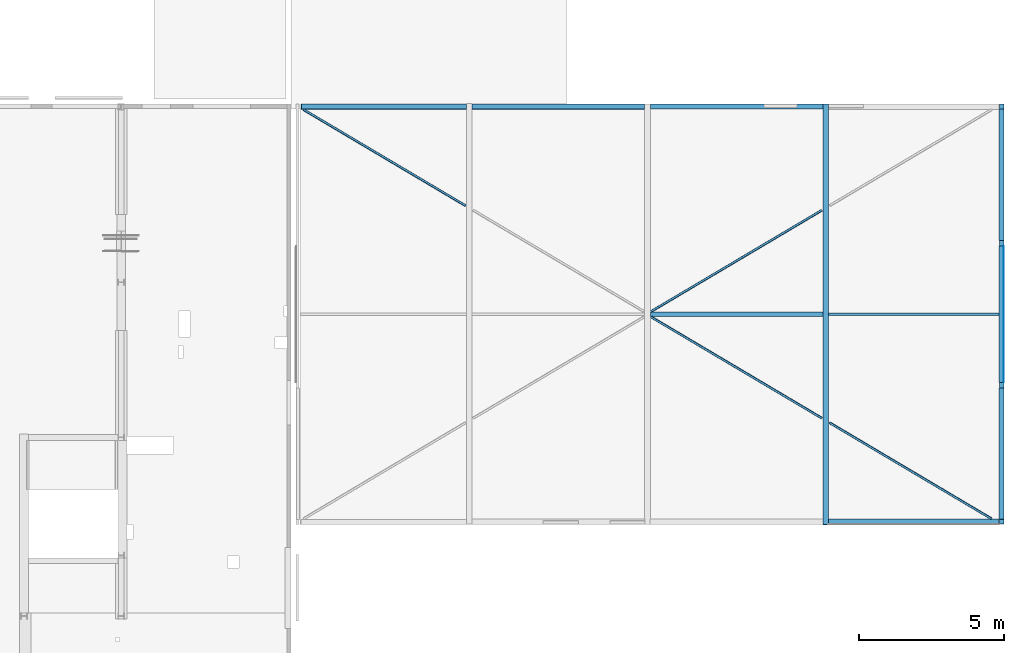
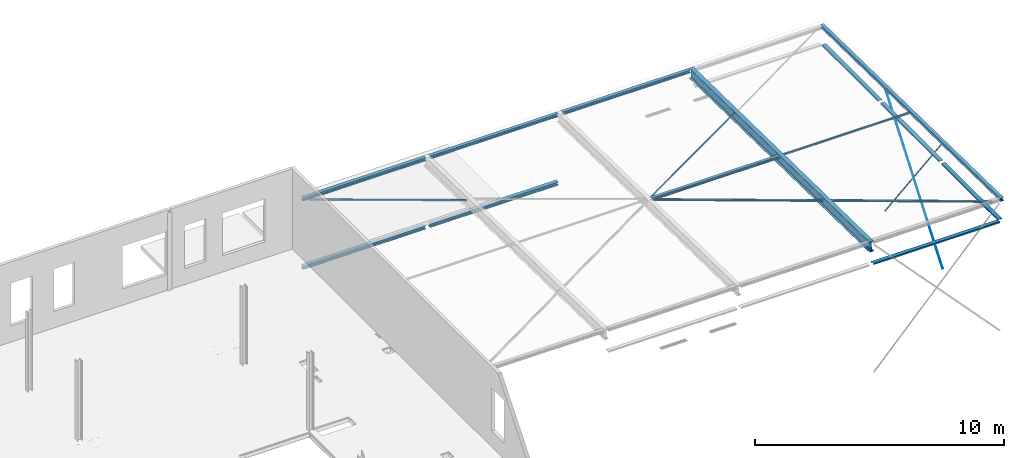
# One storey, part 10 of 16: 20 beams.
"""IFC2X3 building model written with IfcOpenShell, lengths in millimetres."""

from ifc_helpers import new_model, entity, si_unit, converted_unit, derived_unit, direction, frame, frame_2d, origin, place, context, subcontext, project, spatial, polyline, circle_curve, parameter, trimmed, segment, composite_curve, rectangle, i_section, outline, extrude, material, type_object, element, save


model = new_model("IFC2X3")

# Units and contexts
model_context = context("Model", 3, precision=0.01, world=origin(), true_north=direction((6.12303176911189e-17, 1.0)))
body_context = subcontext(model_context, "Body", "Model", "MODEL_VIEW")
ifc_project = project(units=[si_unit("LENGTHUNIT", "METRE", prefix="MILLI"), si_unit("AREAUNIT", "SQUARE_METRE"), si_unit("VOLUMEUNIT", "CUBIC_METRE"), converted_unit("PLANEANGLEUNIT", "DEGREE", entity("IfcRatioMeasure", 0.0174532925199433), si_unit("PLANEANGLEUNIT", "RADIAN"), dimensions=[0, 0, 0, 0, 0, 0, 0]), si_unit("MASSUNIT", "GRAM", prefix="KILO"), derived_unit("MASSDENSITYUNIT", [(si_unit("MASSUNIT", "GRAM", prefix="KILO"), 1), (si_unit("LENGTHUNIT", "METRE"), -3)]), derived_unit("MOMENTOFINERTIAUNIT", [(si_unit("LENGTHUNIT", "METRE"), 4)]), si_unit("TIMEUNIT", "SECOND"), si_unit("FREQUENCYUNIT", "HERTZ"), si_unit("THERMODYNAMICTEMPERATUREUNIT", "DEGREE_CELSIUS"), derived_unit("THERMALTRANSMITTANCEUNIT", [(si_unit("MASSUNIT", "GRAM", prefix="KILO"), 1), (si_unit("THERMODYNAMICTEMPERATUREUNIT", "KELVIN"), -1), (si_unit("TIMEUNIT", "SECOND"), -3)]), derived_unit("VOLUMETRICFLOWRATEUNIT", [(si_unit("LENGTHUNIT", "METRE"), 3), (si_unit("TIMEUNIT", "SECOND"), -1)]), si_unit("ELECTRICCURRENTUNIT", "AMPERE"), si_unit("ELECTRICVOLTAGEUNIT", "VOLT"), si_unit("POWERUNIT", "WATT"), si_unit("FORCEUNIT", "NEWTON", prefix="KILO"), si_unit("ILLUMINANCEUNIT", "LUX"), si_unit("LUMINOUSFLUXUNIT", "LUMEN"), si_unit("LUMINOUSINTENSITYUNIT", "CANDELA"), derived_unit("USERDEFINED", [(si_unit("MASSUNIT", "GRAM", prefix="KILO"), -1), (si_unit("LENGTHUNIT", "METRE"), -2), (si_unit("TIMEUNIT", "SECOND"), 3), (si_unit("LUMINOUSFLUXUNIT", "LUMEN"), 1)]), derived_unit("LINEARVELOCITYUNIT", [(si_unit("LENGTHUNIT", "METRE"), 1), (si_unit("TIMEUNIT", "SECOND"), -1)]), si_unit("PRESSUREUNIT", "PASCAL"), derived_unit("USERDEFINED", [(si_unit("LENGTHUNIT", "METRE"), -2), (si_unit("MASSUNIT", "GRAM", prefix="KILO"), 1), (si_unit("TIMEUNIT", "SECOND"), -2)]), derived_unit("LINEARFORCEUNIT", [(si_unit("MASSUNIT", "GRAM", prefix="KILO"), 1), (si_unit("LENGTHUNIT", "METRE"), 1), (si_unit("TIMEUNIT", "SECOND"), -2), (si_unit("LENGTHUNIT", "METRE"), -1)]), derived_unit("PLANARFORCEUNIT", [(si_unit("MASSUNIT", "GRAM", prefix="KILO"), 1), (si_unit("LENGTHUNIT", "METRE"), 1), (si_unit("TIMEUNIT", "SECOND"), -2), (si_unit("LENGTHUNIT", "METRE"), -2)])], contexts=[model_context])

# Site, building, storey
site_placement = place(None, origin())
site = spatial("IfcSite", under=ifc_project, at=site_placement, Name="Default", CompositionType="ELEMENT")
building_placement = place(site_placement, origin())
building = spatial("IfcBuilding", under=site, at=building_placement, CompositionType="ELEMENT")
storey_placement = place(building_placement, frame((0.0, 0.0, 3500.0)))
storey = spatial("IfcBuildingStorey", under=building, at=storey_placement, Name="01 eerste verdieping", CompositionType="ELEMENT", Elevation=3500.00000000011)

# Beams
ifc_material = material(Name="00_Staal_generiek")
beam_type_1 = type_object("IfcBeamType", Name="BERSnl_28_SF_LIB_balk hea -SH_gen_ISR:balk gen hea140", PredefinedType="BEAM")
beam_1_placement = place(storey_placement, frame((51283.4270571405, 28246.2966282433, 2850.0), z_axis=(0.0, 0.0, 1.0), x_axis=(-1.0, 0.0, 0.0)))
element("IfcBeam", 1, at=beam_1_placement, inside=storey, type_object=beam_type_1, material=ifc_material, Name="BERSnl_28_SF_LIB_balk hea -SH_gen_ISR:balk gen hea140", ObjectType="BERSnl_28_SF_LIB_balk hea -SH_gen_ISR:balk gen hea140", context=body_context, shape_type="SweptSolid", body=[
    extrude(i_section(OverallWidth=140.000000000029, OverallDepth=133.0, WebThickness=5.49999999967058, FlangeThickness=8.50000000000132, FilletRadius=12.0000000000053, at=frame_2d((2.16715534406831e-12, -2.16715534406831e-12), x_axis=(0.0, 1.0))), frame((-1900.0, 0.0, -66.5000000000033), z_axis=(1.0, 0.0, 0.0), x_axis=(0.0, 0.0, -1.0)), (0.0, 0.0, 1.0), 5950.0),
])
beam_type_2 = type_object("IfcBeamType", Name="BERSnl_28_SF_LIB_balk koker vierkant_gen_ISR:balk gen k80x80x4", PredefinedType="BEAM")
beam_2_placement = place(storey_placement, frame((53385.9707996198, 28246.2966282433, 2850.0)))
element("IfcBeam", 2, at=beam_2_placement, inside=storey, type_object=beam_type_2, material=ifc_material, Name="BERSnl_28_SF_LIB_balk koker vierkant_gen_ISR:balk gen k80x80x4", ObjectType="BERSnl_28_SF_LIB_balk koker vierkant_gen_ISR:balk gen k80x80x4", context=body_context, shape_type="SweptSolid", body=[
    extrude(outline(composite_curve([segment(trimmed(circle_curve(frame_2d((-32.0, -32.0), x_axis=(1.0, 0.0)), 8.0), [parameter(180.0)], [parameter(270.0)], True, "PARAMETER"), True, "CONTINUOUS"), segment(polyline([(-32.0, -40.0), (32.0, -40.0)]), True, "CONTINUOUS"), segment(trimmed(circle_curve(frame_2d((32.0, -32.0), x_axis=(1.0, 0.0)), 8.0), [parameter(270.0)], [parameter(5.08888749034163e-14)], True, "PARAMETER"), True, "CONTINUOUS"), segment(polyline([(40.0, -32.0), (40.0, 32.0)]), True, "CONTINUOUS"), segment(trimmed(circle_curve(frame_2d((32.0, 32.0), x_axis=(1.0, 0.0)), 8.0), [parameter(360.0)], [parameter(89.9999999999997)], True, "PARAMETER"), True, "CONTINUOUS"), segment(polyline([(32.0, 40.0), (-32.0, 40.0)]), True, "CONTINUOUS"), segment(trimmed(circle_curve(frame_2d((-32.0, 32.0), x_axis=(1.0, 0.0)), 8.0), [parameter(90.0000000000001)], [parameter(180.0)], True, "PARAMETER"), True, "CONTINUOUS"), segment(polyline([(-40.0, 32.0), (-40.0, -32.0)]), True, "CONTINUOUS")], self_intersect=False), holes=[composite_curve([segment(polyline([(32.0, -36.0), (-32.0, -36.0)]), True, "CONTINUOUS"), segment(trimmed(circle_curve(frame_2d((-32.0, -32.0), x_axis=(1.0, 0.0)), 4.0), [parameter(180.0)], [parameter(270.0)], True, "PARAMETER"), False, "CONTINUOUS"), segment(polyline([(-36.0, -32.0), (-36.0, 32.0)]), True, "CONTINUOUS"), segment(trimmed(circle_curve(frame_2d((-32.0, 32.0), x_axis=(1.0, 0.0)), 4.0), [parameter(90.0000000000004)], [parameter(180.0)], True, "PARAMETER"), False, "CONTINUOUS"), segment(polyline([(-32.0, 36.0), (32.0, 36.0)]), True, "CONTINUOUS"), segment(trimmed(circle_curve(frame_2d((32.0, 32.0), x_axis=(1.0, 0.0)), 4.0), [parameter(0.0)], [parameter(90.0000000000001)], True, "PARAMETER"), False, "CONTINUOUS"), segment(polyline([(36.0, 32.0), (36.0, -32.0)]), True, "CONTINUOUS"), segment(trimmed(circle_curve(frame_2d((32.0, -32.0), x_axis=(1.0, 0.0)), 4.0), [parameter(270.0)], [parameter(3.05333249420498e-13)], True, "PARAMETER"), False, "CONTINUOUS")], self_intersect=False)]), frame((-2.51561371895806, 0.0, -40.0), z_axis=(1.0, 0.0, 0.0), x_axis=(0.0, -1.0, 0.0)), (0.0, 0.0, 1.0), 5889.94374247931),
])
beam_type_3 = type_object("IfcBeamType", Name="BERSnl_28_SF_LIB_balk strip_gen_ISR:balk strip  gen 60x6", PredefinedType="USERDEFINED")
beam_3_placement = place(storey_placement, frame((59430.0649021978, 25904.4378253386, -3462.0795624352), z_axis=(1.0, 0.0, 0.0), x_axis=(0.0, 0.606754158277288, 0.79488954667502)))
element("IfcBeam", 3, at=beam_3_placement, inside=storey, type_object=beam_type_3, material=ifc_material, Name="BERSnl_28_SF_LIB_balk strip_gen_ISR:balk strip  gen 60x6", ObjectType="BERSnl_28_SF_LIB_balk strip_gen_ISR:balk strip  gen 60x6", context=body_context, shape_type="SweptSolid", body=[
    extrude(rectangle(XDim=59.9999999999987, YDim=5.99999999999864, at=frame_2d((0.0, 2.34656738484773e-12), x_axis=(0.0, 1.0))), frame((-17.1987602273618, -30.0, 0.0), z_axis=(1.0, 0.0, 0.0), x_axis=(0.0, 0.0, -1.0)), (0.0, 0.0, 1.0), 7677.19876022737),
])
beam_4_placement = place(storey_placement, frame((59430.4270571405, 30580.2572643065, -3458.08638488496), z_axis=(1.0, 0.0, 0.0), x_axis=(0.0, -0.601815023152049, 0.798635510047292)))
element("IfcBeam", 4, at=beam_4_placement, inside=storey, type_object=beam_type_3, material=ifc_material, Name="BERSnl_28_SF_LIB_balk strip_gen_ISR:balk strip  gen 60x6", ObjectType="BERSnl_28_SF_LIB_balk strip_gen_ISR:balk strip  gen 60x6", context=body_context, shape_type="SweptSolid", body=[
    extrude(rectangle(XDim=59.9999999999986, YDim=5.99999999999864, at=frame_2d((0.0, 2.34479102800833e-12), x_axis=(0.0, 1.0))), frame((-30.5680523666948, 30.0, 0.0), z_axis=(1.0, 0.0, 0.0), x_axis=(0.0, 0.0, -1.0)), (0.0, 0.0, 1.0), 7735.5680523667),
])
beam_type_4 = type_object("IfcBeamType", Name="BERSnl_28_SF_LIB_balk ipe -SH_gen_ISR:balk gen ipe500", PredefinedType="BEAM")
beam_5_placement = place(storey_placement, frame((53283.4270571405, 29989.7966690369, 2820.0), z_axis=(0.0, 0.0168230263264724, 0.999858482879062), x_axis=(0.0, -0.999858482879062, 0.0168230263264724)))
element("IfcBeam", 5, at=beam_5_placement, inside=storey, type_object=beam_type_4, material=ifc_material, Name="BERSnl_28_SF_LIB_balk ipe -SH_gen_ISR:balk gen ipe500", ObjectType="BERSnl_28_SF_LIB_balk ipe -SH_gen_ISR:balk gen ipe500", context=body_context, shape_type="SweptSolid", body=[
    extrude(i_section(OverallWidth=200.000000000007, OverallDepth=499.999999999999, WebThickness=10.1999999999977, FlangeThickness=16.0000000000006, FilletRadius=21.0000000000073, at=frame_2d((0.0, -1.29958266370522e-11), x_axis=(0.0, 1.0))), frame((-5507.27933352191, 0.0, -250.0), z_axis=(1.0, 0.0, 0.0), x_axis=(0.0, 0.0, -1.0)), (0.0, 0.0, 1.0), 14508.604248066),
])
beam_type_5 = type_object("IfcBeamType", Name="BERSnl_28_SF_LIB_balk hea -SH_gen_ISR:balk gen hea160", PredefinedType="BEAM")
beam_6_placement = place(storey_placement, frame((59353.4270571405, 29996.8853596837, 2820.0), z_axis=(0.0, 0.0168230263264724, 0.999858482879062), x_axis=(0.0, -0.999858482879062, 0.0168230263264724)))
element("IfcBeam", 6, at=beam_6_placement, inside=storey, type_object=beam_type_5, material=ifc_material, Name="BERSnl_28_SF_LIB_balk hea -SH_gen_ISR:balk gen hea160", ObjectType="BERSnl_28_SF_LIB_balk hea -SH_gen_ISR:balk gen hea160", context=body_context, shape_type="SweptSolid", body=[
    extrude(i_section(OverallWidth=159.999999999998, OverallDepth=152.0, WebThickness=5.99999999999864, FlangeThickness=9.00000000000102, FilletRadius=14.9999999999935, at=frame_2d((-1.08002495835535e-12, 0.0), x_axis=(0.0, 1.0))), frame((-5499.4173657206, 0.0, -76.0), z_axis=(1.0, 0.0, 0.0), x_axis=(0.0, 0.0, -1.0)), (0.0, 0.0, 1.0), 14495.4876075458),
])
beam_7_placement = place(storey_placement, frame((48617.5838972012, 35416.2966282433, 2727.48315687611)))
element("IfcBeam", 7, at=beam_7_placement, inside=storey, type_object=beam_type_5, material=ifc_material, Name="BERSnl_28_SF_LIB_balk hea -SH_gen_ISR:balk gen hea160", ObjectType="BERSnl_28_SF_LIB_balk hea -SH_gen_ISR:balk gen hea160", context=body_context, shape_type="SweptSolid", body=[
    extrude(i_section(OverallWidth=160.00000000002, OverallDepth=152.0, WebThickness=5.99999999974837, FlangeThickness=9.0000000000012, FilletRadius=15.0000000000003, at=frame_2d((1.08713038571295e-12, -1.51558765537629e-11), x_axis=(0.0, 1.0))), frame((-1384.15684006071, 0.0, -76.0), z_axis=(1.0, 0.0, 0.0), x_axis=(0.0, 0.0, -1.0)), (0.0, 0.0, 1.0), 5949.99999999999),
])
beam_8_placement = place(storey_placement, frame((42467.5838972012, 35416.2966282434, 2727.48315687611)))
element("IfcBeam", 8, at=beam_8_placement, inside=storey, type_object=beam_type_5, material=ifc_material, Name="BERSnl_28_SF_LIB_balk hea -SH_gen_ISR:balk gen hea160", ObjectType="BERSnl_28_SF_LIB_balk hea -SH_gen_ISR:balk gen hea160", context=body_context, shape_type="SweptSolid", body=[
    extrude(i_section(OverallWidth=160.00000000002, OverallDepth=152.0, WebThickness=5.99999999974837, FlangeThickness=9.0000000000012, FilletRadius=15.0000000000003, at=frame_2d((1.08713038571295e-12, 6.50146603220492e-12), x_axis=(0.0, 1.0))), frame((-1384.15684006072, 0.0, -76.0), z_axis=(1.0, 0.0, 0.0), x_axis=(0.0, 0.0, -1.0)), (0.0, 0.0, 1.0), 5949.99999999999),
])
beam_9_placement = place(storey_placement, frame((36767.5838972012, 35416.2966282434, 2727.48315687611)))
element("IfcBeam", 9, at=beam_9_placement, inside=storey, type_object=beam_type_5, material=ifc_material, Name="BERSnl_28_SF_LIB_balk hea -SH_gen_ISR:balk gen hea160", ObjectType="BERSnl_28_SF_LIB_balk hea -SH_gen_ISR:balk gen hea160", context=body_context, shape_type="SweptSolid", body=[
    extrude(i_section(OverallWidth=160.00000000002, OverallDepth=152.0, WebThickness=5.99999999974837, FlangeThickness=9.0000000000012, FilletRadius=15.0000000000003, at=frame_2d((1.08713038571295e-12, 2.16715534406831e-12), x_axis=(0.0, 1.0))), frame((-1576.78406542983, 0.0, -76.0), z_axis=(1.0, 0.0, 0.0), x_axis=(0.0, 0.0, -1.0)), (0.0, 0.0, 1.0), 5692.62722536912),
])
beam_type_6 = type_object("IfcBeamType", Name="BERSnl_28_SF_LIB_balk hoeklijn_gen_ISR:balk gen l80x8", PredefinedType="BEAM")
beam_10_placement = place(storey_placement, frame((40849.682624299, 31971.2776952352, 2750.0), z_axis=(-0.0022716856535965, 0.00134664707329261, 0.999996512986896), x_axis=(-0.860211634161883, 0.509930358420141, -0.00264083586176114)))
element("IfcBeam", 10, at=beam_10_placement, inside=storey, type_object=beam_type_6, material=ifc_material, Name="BERSnl_28_SF_LIB_balk hoeklijn_gen_ISR:balk gen l80x8", ObjectType="BERSnl_28_SF_LIB_balk hoeklijn_gen_ISR:balk gen l80x8", context=body_context, shape_type="SweptSolid", body=[
    extrude(outline(composite_curve([segment(polyline([(27.2222222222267, -49.7777777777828), (30.2222222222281, -49.7777777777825)]), True, "CONTINUOUS"), segment(polyline([(30.2222222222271, -49.7777777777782), (30.2222222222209, 30.222222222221)]), True, "CONTINUOUS"), segment(polyline([(30.2222222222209, 30.2222222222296), (-49.7777777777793, 30.2222222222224)]), True, "CONTINUOUS"), segment(polyline([(-49.7777777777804, 30.2222222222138), (-49.777777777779, 27.2222222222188)]), True, "CONTINUOUS"), segment(trimmed(circle_curve(frame_2d((-44.7777777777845, 27.2222222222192), x_axis=(-1.0, 0.0)), 4.99999999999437), [parameter(0.0)], [parameter(90.0000000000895)], True, "PARAMETER"), True, "CONTINUOUS"), segment(polyline([(-44.7777777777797, 22.2222222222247), (12.2222222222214, 22.2222222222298)]), True, "CONTINUOUS"), segment(trimmed(circle_curve(frame_2d((12.2222222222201, 12.2222222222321), x_axis=(0.0, 1.0)), 10.0000000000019), [parameter(270.000000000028)], [parameter(0.0)], True, "PARAMETER"), False, "CONTINUOUS"), segment(polyline([(22.2222222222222, 12.2222222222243), (22.2222222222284, -44.7777777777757)]), True, "CONTINUOUS"), segment(trimmed(circle_curve(frame_2d((27.2222222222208, -44.7777777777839), x_axis=(-1.0, 0.0)), 4.99999999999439), [parameter(0.0)], [parameter(90.0000000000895)], True, "PARAMETER"), True, "CONTINUOUS")], self_intersect=False)), frame((0.00990315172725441, -7.62222222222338, -49.7777777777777), z_axis=(1.0, 0.0, 0.0), x_axis=(0.0, 0.0, -1.0)), (0.0, 0.0, 1.0), 6510.70739609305),
])
beam_11_placement = place(storey_placement, frame((49320.9802324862, 29543.0702714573, 2840.0), z_axis=(0.00694321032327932, 0.0041159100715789, 0.99996742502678), x_axis=(0.860186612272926, 0.509915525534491, -0.00807148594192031)))
element("IfcBeam", 11, at=beam_11_placement, inside=storey, type_object=beam_type_6, material=ifc_material, Name="BERSnl_28_SF_LIB_balk hoeklijn_gen_ISR:balk gen l80x8", ObjectType="BERSnl_28_SF_LIB_balk hoeklijn_gen_ISR:balk gen l80x8", context=body_context, shape_type="SweptSolid", body=[
    extrude(outline(composite_curve([segment(polyline([(-49.7777777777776, -30.2222222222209), (30.2222222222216, -30.2222222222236)]), True, "CONTINUOUS"), segment(polyline([(30.2222222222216, -30.2222222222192), (30.2222222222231, 49.7777777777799)]), True, "CONTINUOUS"), segment(polyline([(30.2222222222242, 49.7777777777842), (27.2222222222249, 49.77777777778)]), True, "CONTINUOUS"), segment(trimmed(circle_curve(frame_2d((27.2222222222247, 44.7777777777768), x_axis=(0.0, 1.0)), 5.00000000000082), [parameter(0.0)], [parameter(89.9999999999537)], True, "PARAMETER"), True, "CONTINUOUS"), segment(polyline([(22.2222222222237, 44.7777777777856), (22.2222222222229, -12.2222222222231)]), True, "CONTINUOUS"), segment(trimmed(circle_curve(frame_2d((12.2222222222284, -12.2222222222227), x_axis=(1.0, 0.0)), 9.99999999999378), [parameter(269.999999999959)], [parameter(0.0)], True, "PARAMETER"), False, "CONTINUOUS"), segment(polyline([(12.2222222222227, -22.2222222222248), (-44.7777777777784, -22.2222222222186)]), True, "CONTINUOUS"), segment(trimmed(circle_curve(frame_2d((-44.7777777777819, -27.2222222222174), x_axis=(0.0, 1.0)), 4.99999999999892), [parameter(0.0)], [parameter(90.0000000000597)], True, "PARAMETER"), True, "CONTINUOUS"), segment(polyline([(-49.7777777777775, -27.2222222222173), (-49.7777777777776, -30.2222222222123)]), True, "CONTINUOUS")], self_intersect=False)), frame((-2388.33625352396, 7.62222222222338, -49.7777777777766), z_axis=(1.0, 0.0, 0.0), x_axis=(0.0, 0.0, -1.0)), (0.0, 0.0, 1.0), 6853.10228995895),
])
beam_12_placement = place(storey_placement, frame((49320.9802324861, 26949.5229850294, 2840.0), z_axis=(0.0, 0.0, 1.0), x_axis=(0.860214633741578, -0.509932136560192, 0.0)))
element("IfcBeam", 12, at=beam_12_placement, inside=storey, type_object=beam_type_6, material=ifc_material, Name="BERSnl_28_SF_LIB_balk hoeklijn_gen_ISR:balk gen l80x8", ObjectType="BERSnl_28_SF_LIB_balk hoeklijn_gen_ISR:balk gen l80x8", context=body_context, shape_type="SweptSolid", body=[
    extrude(outline(composite_curve([segment(polyline([(27.2222222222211, -49.7777777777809), (30.2222222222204, -49.7777777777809)]), True, "CONTINUOUS"), segment(polyline([(30.2222222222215, -49.7777777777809), (30.2222222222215, 30.2222222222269)]), True, "CONTINUOUS"), segment(polyline([(30.2222222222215, 30.2222222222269), (-49.7777777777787, 30.2222222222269)]), True, "CONTINUOUS"), segment(polyline([(-49.7777777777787, 30.2222222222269), (-49.7777777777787, 27.2222222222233)]), True, "CONTINUOUS"), segment(trimmed(circle_curve(frame_2d((-44.7777777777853, 27.2222222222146), x_axis=(-1.0, 0.0)), 4.99999999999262), [parameter(0.0)], [parameter(90.0000000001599)], True, "PARAMETER"), True, "CONTINUOUS"), segment(polyline([(-44.7777777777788, 22.2222222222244), (12.2222222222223, 22.2222222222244)]), True, "CONTINUOUS"), segment(trimmed(circle_curve(frame_2d((12.2222222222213, 12.2222222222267), x_axis=(0.0, 1.0)), 10.0000000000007), [parameter(270.000000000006)], [parameter(0.0)], True, "PARAMETER"), False, "CONTINUOUS"), segment(polyline([(22.2222222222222, 12.2222222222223), (22.2222222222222, -44.7777777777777)]), True, "CONTINUOUS"), segment(trimmed(circle_curve(frame_2d((27.2222222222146, -44.777777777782), x_axis=(-1.0, 0.0)), 4.99999999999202), [parameter(0.0)], [parameter(90.0000000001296)], True, "PARAMETER"), True, "CONTINUOUS")], self_intersect=False)), frame((-2388.35889808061, -7.62222222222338, -49.7777777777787), z_axis=(1.0, 0.0, 0.0), x_axis=(0.0, 0.0, -1.0)), (0.0, 0.0, 1.0), 6853.00228995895),
])
beam_13_placement = place(storey_placement, frame((53417.171489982, 24521.3155612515, 2850.0), z_axis=(0.0, 0.0, 1.0), x_axis=(0.860214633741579, -0.509932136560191, 0.0)))
element("IfcBeam", 13, at=beam_13_placement, inside=storey, type_object=beam_type_6, material=ifc_material, Name="BERSnl_28_SF_LIB_balk hoeklijn_gen_ISR:balk gen l80x8", ObjectType="BERSnl_28_SF_LIB_balk hoeklijn_gen_ISR:balk gen l80x8", context=body_context, shape_type="SweptSolid", body=[
    extrude(outline(composite_curve([segment(polyline([(27.222222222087, -49.7777777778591), (30.2222222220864, -49.7777777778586)]), True, "CONTINUOUS"), segment(polyline([(30.2222222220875, -49.7777777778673), (30.2222222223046, 30.2222222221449)]), True, "CONTINUOUS"), segment(polyline([(30.2222222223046, 30.2222222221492), (-49.7777777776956, 30.2222222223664)]), True, "CONTINUOUS"), segment(polyline([(-49.7777777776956, 30.222222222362), (-49.7777777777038, 27.2222222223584)]), True, "CONTINUOUS"), segment(trimmed(circle_curve(frame_2d((-44.7777777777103, 27.2222222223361), x_axis=(-1.0, 0.0)), 4.99999999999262), [parameter(0.0)], [parameter(90.0000000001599)], True, "PARAMETER"), True, "CONTINUOUS"), segment(polyline([(-44.7777777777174, 22.2222222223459), (12.2222222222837, 22.2222222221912)]), True, "CONTINUOUS"), segment(trimmed(circle_curve(frame_2d((12.2222222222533, 12.2222222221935), x_axis=(0.0, 1.0)), 10.0000000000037), [parameter(270.00000000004)], [parameter(0.0)], True, "PARAMETER"), False, "CONTINUOUS"), segment(polyline([(22.2222222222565, 12.2222222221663), (22.2222222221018, -44.7777777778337)]), True, "CONTINUOUS"), segment(trimmed(circle_curve(frame_2d((27.2222222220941, -44.7777777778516), x_axis=(-1.0, 0.0)), 4.999999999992), [parameter(0.0)], [parameter(90.0000000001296)], True, "PARAMETER"), True, "CONTINUOUS")], self_intersect=False)), frame((0.0, -7.62222222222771, -49.7777777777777), z_axis=(1.0, 0.0, 0.0), x_axis=(0.0, 0.0, -1.0)), (0.0, 0.0, 1.0), 6510.70739609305),
])
beam_type_7 = type_object("IfcBeamType", Name="BERSnl_28_SF_LIB_balk hea -SH_gen_ISR:balk gen hea180", PredefinedType="BEAM")
beam_14_placement = place(storey_placement, frame((43013.4270571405, 35406.2966282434, -600.0), z_axis=(0.0, 0.0, 1.0), x_axis=(-1.0, 0.0, 0.0)))
element("IfcBeam", 14, at=beam_14_placement, inside=storey, type_object=beam_type_7, material=ifc_material, Name="BERSnl_28_SF_LIB_balk hea -SH_gen_ISR:balk gen hea180", ObjectType="BERSnl_28_SF_LIB_balk hea -SH_gen_ISR:balk gen hea180", context=body_context, shape_type="SweptSolid", body=[
    extrude(i_section(OverallWidth=180.000000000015, OverallDepth=171.0, WebThickness=5.99999999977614, FlangeThickness=9.50000000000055, FilletRadius=15.0000000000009, at=frame_2d((0.0, -2.1600499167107e-12), x_axis=(0.0, 1.0))), frame((-4020.0, 0.0, -85.500000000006), z_axis=(1.0, 0.0, 0.0), x_axis=(0.0, 0.0, -1.0)), (0.0, 0.0, 1.0), 5960.0),
])
beam_15_placement = place(storey_placement, frame((38953.4270571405, 35406.2966282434, -600.0)))
element("IfcBeam", 15, at=beam_15_placement, inside=storey, type_object=beam_type_7, material=ifc_material, Name="BERSnl_28_SF_LIB_balk hea -SH_gen_ISR:balk gen hea180", ObjectType="BERSnl_28_SF_LIB_balk hea -SH_gen_ISR:balk gen hea180", context=body_context, shape_type="SweptSolid", body=[
    extrude(i_section(OverallWidth=180.000000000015, OverallDepth=170.999999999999, WebThickness=5.99999999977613, FlangeThickness=9.50000000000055, FilletRadius=15.0000000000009, at=frame_2d((0.0, -2.1600499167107e-12), x_axis=(0.0, 1.0))), frame((-3774.0, 0.0, -85.5000000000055), z_axis=(1.0, 0.0, 0.0), x_axis=(0.0, 0.0, -1.0)), (0.0, 0.0, 1.0), 5703.99999999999),
])
beam_type_8 = type_object("IfcBeamType", Name="BERSnl_28_SF_LIB_balk unp_gen_ISR:balk_gen_UNP180", PredefinedType="BEAM")
beam_16_placement = place(storey_placement, frame((59253.4270571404, 21586.6485141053, 1832.49999999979), z_axis=(0.0, 0.0, 1.0), x_axis=(0.0, -1.0, 0.0)))
element("IfcBeam", 16, at=beam_16_placement, inside=storey, type_object=beam_type_8, material=ifc_material, Name="BERSnl_28_SF_LIB_balk unp_gen_ISR:balk_gen_UNP180", ObjectType="BERSnl_28_SF_LIB_balk unp_gen_ISR:balk_gen_UNP180", context=body_context, shape_type="SweptSolid", body=[
    extrude(outline(composite_curve([segment(polyline([(-38.5101366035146, -90.0), (31.4898633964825, -90.0)]), True, "CONTINUOUS"), segment(polyline([(31.4898633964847, -90.0), (31.4898633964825, -86.5603415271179)]), True, "CONTINUOUS"), segment(trimmed(circle_curve(frame_2d((25.9898633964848, -86.5603415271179), x_axis=(1.0, 0.0)), 5.49999999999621), [parameter(0.0)], [parameter(85.4200000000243)], True, "PARAMETER"), True, "CONTINUOUS"), segment(polyline([(26.4290437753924, -81.0779040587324), (-20.3884973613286, -77.3275018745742)]), True, "CONTINUOUS"), segment(trimmed(circle_curve(frame_2d((-19.5101366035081, -66.3626269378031), x_axis=(-0.0798509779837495, -0.996806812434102)), 11.0000000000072), [parameter(274.58000000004)], [parameter(0.0)], True, "PARAMETER"), False, "CONTINUOUS"), segment(polyline([(-30.5101366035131, -66.3626269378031), (-30.5101366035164, 66.3626269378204)]), True, "CONTINUOUS"), segment(trimmed(circle_curve(frame_2d((-19.5101366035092, 66.3626269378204), x_axis=(-1.0, 0.0)), 11.0000000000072), [parameter(274.58000000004)], [parameter(0.0)], True, "PARAMETER"), False, "CONTINUOUS"), segment(polyline([(-20.3884973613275, 77.3275018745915), (26.4290437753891, 81.0779040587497)]), True, "CONTINUOUS"), segment(trimmed(circle_curve(frame_2d((25.9898633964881, 86.5603415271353), x_axis=(0.0798509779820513, -0.996806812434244)), 5.49999999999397), [parameter(0.0)], [parameter(85.4200000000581)], True, "PARAMETER"), True, "CONTINUOUS"), segment(polyline([(31.4898633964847, 86.5603415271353), (31.4898633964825, 90.0)]), True, "CONTINUOUS"), segment(polyline([(31.4898633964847, 90.0), (-38.5101366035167, 90.0)]), True, "CONTINUOUS"), segment(polyline([(-38.5101366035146, 90.0), (-38.5101366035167, -90.0)]), True, "CONTINUOUS")], self_intersect=False)), frame((-4119.64811413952, 90.0, -19.3101366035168), z_axis=(1.0, 0.0, 0.0), x_axis=(0.0, 0.0, -1.0)), (0.0, 0.0, 1.0), 4539.00000000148),
])
beam_17_placement = place(storey_placement, frame((59253.4270571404, 26301.6485141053, 1832.49999999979), z_axis=(0.0, 0.0, 1.0), x_axis=(0.0, -1.0, 0.0)))
element("IfcBeam", 17, at=beam_17_placement, inside=storey, type_object=beam_type_8, material=ifc_material, Name="BERSnl_28_SF_LIB_balk unp_gen_ISR:balk_gen_UNP180", ObjectType="BERSnl_28_SF_LIB_balk unp_gen_ISR:balk_gen_UNP180", context=body_context, shape_type="SweptSolid", body=[
    extrude(outline(composite_curve([segment(polyline([(-38.5101366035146, -90.0), (31.4898633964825, -90.0)]), True, "CONTINUOUS"), segment(polyline([(31.4898633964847, -90.0), (31.4898633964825, -86.5603415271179)]), True, "CONTINUOUS"), segment(trimmed(circle_curve(frame_2d((25.9898633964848, -86.5603415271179), x_axis=(1.0, 0.0)), 5.49999999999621), [parameter(0.0)], [parameter(85.4200000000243)], True, "PARAMETER"), True, "CONTINUOUS"), segment(polyline([(26.4290437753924, -81.0779040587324), (-20.3884973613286, -77.3275018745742)]), True, "CONTINUOUS"), segment(trimmed(circle_curve(frame_2d((-19.5101366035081, -66.3626269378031), x_axis=(-0.0798509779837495, -0.996806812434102)), 11.0000000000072), [parameter(274.58000000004)], [parameter(0.0)], True, "PARAMETER"), False, "CONTINUOUS"), segment(polyline([(-30.5101366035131, -66.3626269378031), (-30.5101366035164, 66.3626269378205)]), True, "CONTINUOUS"), segment(trimmed(circle_curve(frame_2d((-19.5101366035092, 66.3626269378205), x_axis=(-1.0, 0.0)), 11.0000000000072), [parameter(274.58000000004)], [parameter(0.0)], True, "PARAMETER"), False, "CONTINUOUS"), segment(polyline([(-20.3884973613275, 77.3275018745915), (26.4290437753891, 81.0779040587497)]), True, "CONTINUOUS"), segment(trimmed(circle_curve(frame_2d((25.9898633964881, 86.5603415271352), x_axis=(0.0798509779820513, -0.996806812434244)), 5.49999999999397), [parameter(0.0)], [parameter(85.4200000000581)], True, "PARAMETER"), True, "CONTINUOUS"), segment(polyline([(31.4898633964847, 86.5603415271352), (31.4898633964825, 90.0)]), True, "CONTINUOUS"), segment(polyline([(31.4898633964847, 90.0), (-38.5101366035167, 90.0)]), True, "CONTINUOUS"), segment(polyline([(-38.5101366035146, 90.0), (-38.5101366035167, -90.0)]), True, "CONTINUOUS")], self_intersect=False)), frame((-4304.64811413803, 90.0, -19.3101366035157), z_axis=(1.0, 0.0, 0.0), x_axis=(0.0, 0.0, -1.0)), (0.0, 0.0, 1.0), 4719.99999999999),
])
beam_18_placement = place(storey_placement, frame((59253.4270571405, 31205.6485141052, 1832.49999999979), z_axis=(0.0, 0.0, 1.0), x_axis=(0.0, -1.0, 0.0)))
element("IfcBeam", 18, at=beam_18_placement, inside=storey, type_object=beam_type_8, material=ifc_material, Name="BERSnl_28_SF_LIB_balk unp_gen_ISR:balk_gen_UNP180", ObjectType="BERSnl_28_SF_LIB_balk unp_gen_ISR:balk_gen_UNP180", context=body_context, shape_type="SweptSolid", body=[
    extrude(outline(composite_curve([segment(polyline([(-38.5101366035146, -90.0), (31.4898633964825, -90.0)]), True, "CONTINUOUS"), segment(polyline([(31.4898633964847, -90.0), (31.4898633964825, -86.5603415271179)]), True, "CONTINUOUS"), segment(trimmed(circle_curve(frame_2d((25.9898633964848, -86.5603415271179), x_axis=(1.0, 0.0)), 5.49999999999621), [parameter(0.0)], [parameter(85.4200000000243)], True, "PARAMETER"), True, "CONTINUOUS"), segment(polyline([(26.4290437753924, -81.0779040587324), (-20.3884973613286, -77.3275018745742)]), True, "CONTINUOUS"), segment(trimmed(circle_curve(frame_2d((-19.5101366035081, -66.3626269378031), x_axis=(-0.0798509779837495, -0.996806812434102)), 11.0000000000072), [parameter(274.58000000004)], [parameter(0.0)], True, "PARAMETER"), False, "CONTINUOUS"), segment(polyline([(-30.5101366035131, -66.3626269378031), (-30.5101366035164, 66.3626269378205)]), True, "CONTINUOUS"), segment(trimmed(circle_curve(frame_2d((-19.5101366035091, 66.3626269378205), x_axis=(-1.0, 0.0)), 11.0000000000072), [parameter(274.58000000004)], [parameter(0.0)], True, "PARAMETER"), False, "CONTINUOUS"), segment(polyline([(-20.3884973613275, 77.3275018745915), (26.4290437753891, 81.0779040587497)]), True, "CONTINUOUS"), segment(trimmed(circle_curve(frame_2d((25.9898633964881, 86.5603415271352), x_axis=(0.0798509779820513, -0.996806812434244)), 5.49999999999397), [parameter(0.0)], [parameter(85.4200000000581)], True, "PARAMETER"), True, "CONTINUOUS"), segment(polyline([(31.4898633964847, 86.5603415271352), (31.4898633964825, 90.0)]), True, "CONTINUOUS"), segment(polyline([(31.4898633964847, 90.0), (-38.5101366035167, 90.0)]), True, "CONTINUOUS"), segment(polyline([(-38.5101366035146, 90.0), (-38.5101366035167, -90.0)]), True, "CONTINUOUS")], self_intersect=False)), frame((-4119.64811413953, 90.0, -19.3101366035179), z_axis=(1.0, 0.0, 0.0), x_axis=(0.0, 0.0, -1.0)), (0.0, 0.0, 1.0), 4539.00000000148),
])
beam_19_placement = place(storey_placement, frame((61321.5254640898, 21176.2966282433, 1832.49999999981), z_axis=(0.0, 0.0, 1.0), x_axis=(-1.0, 0.0, 0.0)))
element("IfcBeam", 19, at=beam_19_placement, inside=storey, type_object=beam_type_8, material=ifc_material, Name="BERSnl_28_SF_LIB_balk unp_gen_ISR:balk_gen_UNP180", ObjectType="BERSnl_28_SF_LIB_balk unp_gen_ISR:balk_gen_UNP180", context=body_context, shape_type="SweptSolid", body=[
    extrude(outline(composite_curve([segment(polyline([(-38.5101366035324, -90.0), (31.4898633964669, -90.0)]), True, "CONTINUOUS"), segment(polyline([(31.4898633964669, -90.0), (31.4898633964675, -86.5603415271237)]), True, "CONTINUOUS"), segment(trimmed(circle_curve(frame_2d((25.9898633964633, -86.5603415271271), x_axis=(1.0, 0.0)), 5.50000000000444), [parameter(0.0)], [parameter(85.4199999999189)], True, "PARAMETER"), True, "CONTINUOUS"), segment(polyline([(26.4290437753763, -81.0779040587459), (-20.3884973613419, -77.3275018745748)]), True, "CONTINUOUS"), segment(trimmed(circle_curve(frame_2d((-19.510136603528, -66.3626269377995), x_axis=(-0.0798509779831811, -0.996806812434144)), 10.9999999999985), [parameter(274.579999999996)], [parameter(0.0)], True, "PARAMETER"), False, "CONTINUOUS"), segment(polyline([(-30.5101366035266, -66.3626269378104), (-30.510136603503, 66.3626269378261)]), True, "CONTINUOUS"), segment(trimmed(circle_curve(frame_2d((-19.5101366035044, 66.3626269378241), x_axis=(-1.0, 0.0)), 10.9999999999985), [parameter(274.579999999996)], [parameter(0.0)], True, "PARAMETER"), False, "CONTINUOUS"), segment(polyline([(-20.3884973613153, 77.3275018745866), (26.4290437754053, 81.0779040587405)]), True, "CONTINUOUS"), segment(trimmed(circle_curve(frame_2d((25.9898633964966, 86.5603415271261), x_axis=(0.0798509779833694, -0.99680681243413)), 5.50000000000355), [parameter(0.0)], [parameter(85.4199999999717)], True, "PARAMETER"), True, "CONTINUOUS"), segment(polyline([(31.4898633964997, 86.5603415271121), (31.4898633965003, 90.0)]), True, "CONTINUOUS"), segment(polyline([(31.4898633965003, 90.0), (-38.510136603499, 90.0)]), True, "CONTINUOUS"), segment(polyline([(-38.5101366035, 90.0), (-38.5101366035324, -90.0)]), True, "CONTINUOUS")], self_intersect=False)), frame((2068.09840694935, 90.0, -19.3101366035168), z_axis=(1.0, 0.0, 0.0), x_axis=(0.0, 0.0, -1.0)), (0.0, 0.0, 1.0), 5880.00000000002),
])
beam_20_placement = place(storey_placement, frame((59253.4270571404, 21401.6485141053, 1832.49999999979), z_axis=(0.0, 0.0, 1.0), x_axis=(0.0, -1.0, 0.0)))
element("IfcBeam", 20, at=beam_20_placement, inside=storey, type_object=beam_type_8, material=ifc_material, Name="BERSnl_28_SF_LIB_balk unp_gen_ISR:balk_gen_UNP180", ObjectType="BERSnl_28_SF_LIB_balk unp_gen_ISR:balk_gen_UNP180", context=body_context, shape_type="SweptSolid", body=[
    extrude(outline(composite_curve([segment(polyline([(-38.5101366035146, -90.0), (31.4898633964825, -90.0)]), True, "CONTINUOUS"), segment(polyline([(31.4898633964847, -90.0), (31.4898633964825, -86.5603415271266)]), True, "CONTINUOUS"), segment(trimmed(circle_curve(frame_2d((25.9898633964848, -86.5603415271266), x_axis=(1.0, 0.0)), 5.49999999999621), [parameter(0.0)], [parameter(85.4200000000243)], True, "PARAMETER"), True, "CONTINUOUS"), segment(polyline([(26.4290437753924, -81.077904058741), (-20.3884973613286, -77.3275018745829)]), True, "CONTINUOUS"), segment(trimmed(circle_curve(frame_2d((-19.5101366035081, -66.3626269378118), x_axis=(-0.0798509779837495, -0.996806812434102)), 11.0000000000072), [parameter(274.58000000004)], [parameter(0.0)], True, "PARAMETER"), False, "CONTINUOUS"), segment(polyline([(-30.5101366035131, -66.3626269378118), (-30.5101366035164, 66.3626269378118)]), True, "CONTINUOUS"), segment(trimmed(circle_curve(frame_2d((-19.5101366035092, 66.3626269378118), x_axis=(-1.0, 0.0)), 11.0000000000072), [parameter(274.58000000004)], [parameter(0.0)], True, "PARAMETER"), False, "CONTINUOUS"), segment(polyline([(-20.3884973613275, 77.3275018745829), (26.4290437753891, 81.077904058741)]), True, "CONTINUOUS"), segment(trimmed(circle_curve(frame_2d((25.9898633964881, 86.5603415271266), x_axis=(0.0798509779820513, -0.996806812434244)), 5.49999999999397), [parameter(0.0)], [parameter(85.4200000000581)], True, "PARAMETER"), True, "CONTINUOUS"), segment(polyline([(31.4898633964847, 86.5603415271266), (31.4898633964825, 90.0)]), True, "CONTINUOUS"), segment(polyline([(31.4898633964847, 90.0), (-38.5101366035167, 90.0)]), True, "CONTINUOUS"), segment(polyline([(-38.5101366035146, 90.0), (-38.5101366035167, -90.0)]), True, "CONTINUOUS")], self_intersect=False)), frame((-4304.64811413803, 90.0, -19.3101366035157), z_axis=(1.0, 0.0, 0.0), x_axis=(0.0, 0.0, -1.0)), (0.0, 0.0, 1.0), 4529.99999999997),
])

save(model, "model.ifc")
